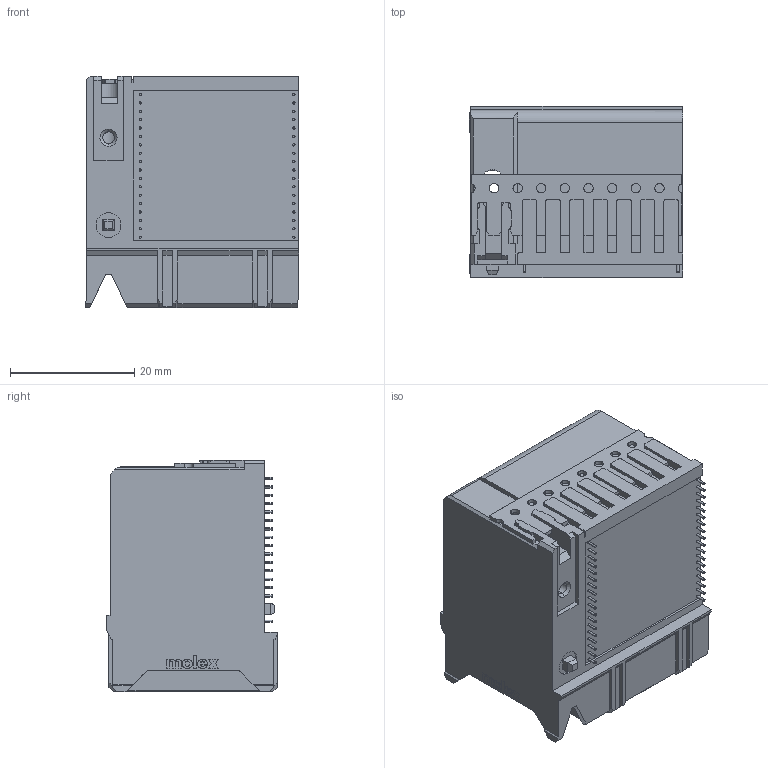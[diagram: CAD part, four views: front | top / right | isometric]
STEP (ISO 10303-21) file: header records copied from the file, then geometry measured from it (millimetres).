
FILE_DESCRIPTION((''),'2;1');
FILE_NAME('761505014','2020-01-30T',('gga'),(''),'PRO/ENGINEER BY PARAMETRIC TECHNOLOGY CORPORATION, 2016010','PRO/ENGINEER BY PARAMETRIC TECHNOLOGY CORPORATION, 2016010','');
FILE_SCHEMA(('CONFIG_CONTROL_DESIGN'));
Products named in the file (1): 761505014
Bounding box: 34.29 x 27.5 x 37.26 mm (x, y, z)
Volume: 29373.1 mm3; surface area: 8044.5 mm2
Topology: 1 solids, 1 shells, 2841 faces, 7078 edges, 4546 vertices
Faces by surface type: plane 2689, cylinder 146, cone 6
Entity records: 81659 total; most frequent: CARTESIAN_POINT 14028, DIRECTION 13572, ORIENTED_EDGE 13148, EDGE_CURVE 6574, VECTOR 6252, LINE 6252, VERTEX_POINT 4042, AXIS2_PLACEMENT_3D 3660
